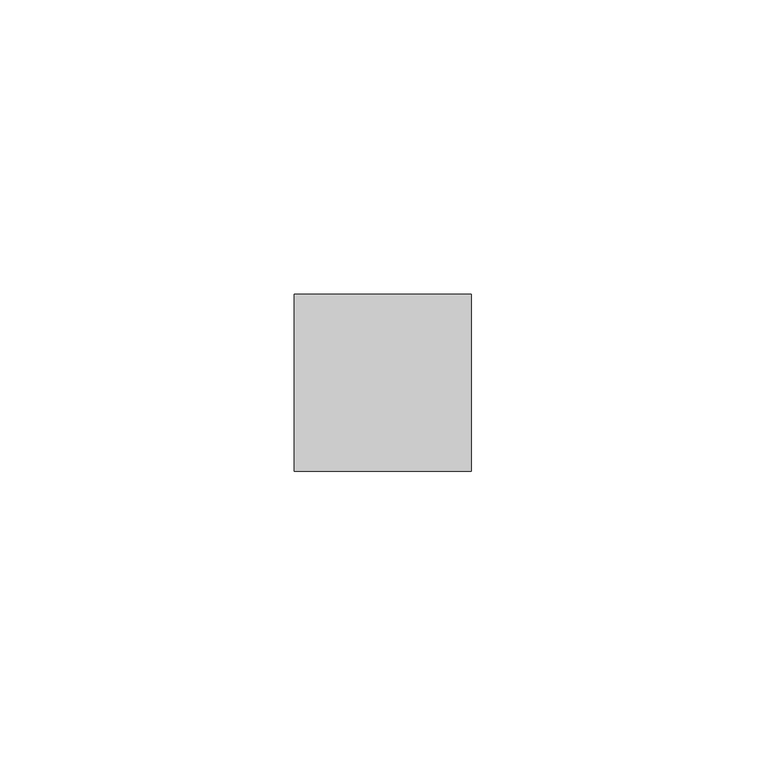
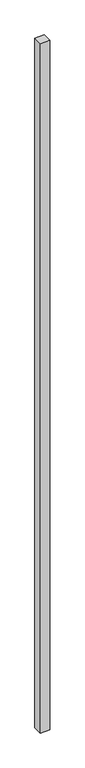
"""IFC4 building model written with IfcOpenShell, lengths in millimetres: member geometry, 矩形竖梃 : 30mm 正方形."""

from ifc_helpers import new_model, si_unit, frame, origin, place, context, project, spatial, polyline, outline, extrude, source, transform, mapped, element, save


def member_050b8304(model_context):
    return source(origin(), model_context, "Body", "SweptSolid", [
        extrude(outline(polyline([(15.0, 15.0), (15.0, -15.0), (-15.0, -15.0), (-15.0, 15.0), (15.0, 15.0)])), frame((0.0, 0.0, -2300.0), z_axis=(0.0, 0.0, 1.0), x_axis=(1.0, 0.0, 0.0)), (0.0, 0.0, 1.0), 2300.0),
    ])


if __name__ == "__main__":
    model = new_model("IFC4")
    model_context = context("Model", 3, world=origin())
    ifc_project = project(units=[si_unit("LENGTHUNIT", "METRE", prefix="MILLI")], contexts=[model_context])
    site = spatial("IfcSite", under=ifc_project)
    building = spatial("IfcBuilding", under=site)
    placement = place(None, origin())
    member_shape = member_050b8304(model_context)
    element("IfcMember", 1, ObjectType="矩形竖梃 : 30mm 正方形", at=placement, inside=building, context=model_context, shape_type="MappedRepresentation", body=[
        mapped(member_shape, transform((0.0, 0.0, 0.0), x_axis=(1.0, 0.0, 0.0), y_axis=(0.0, 1.0, 0.0), z_axis=(0.0, 0.0, 1.0))),
    ])
    save(model, "model.ifc")
